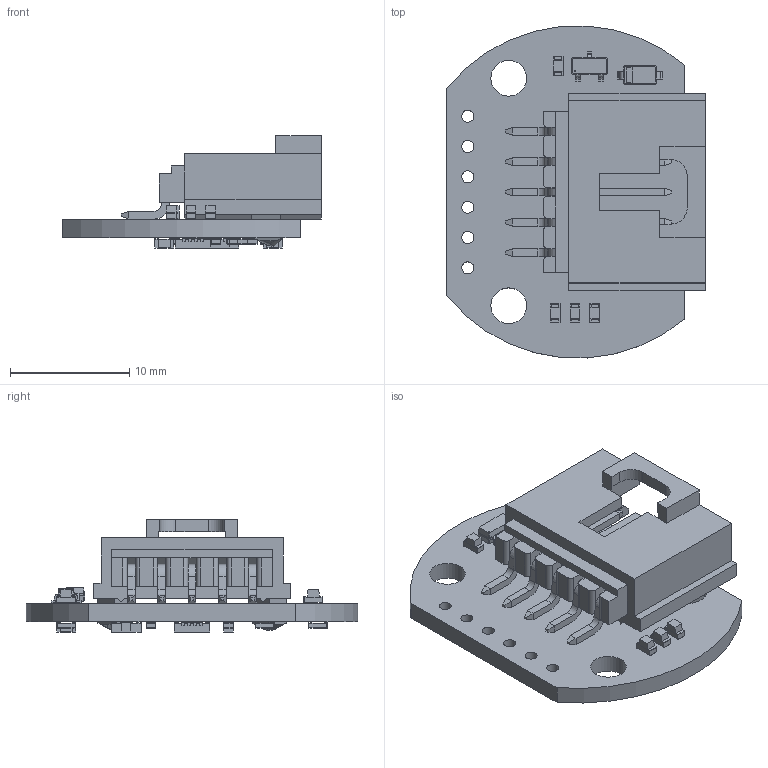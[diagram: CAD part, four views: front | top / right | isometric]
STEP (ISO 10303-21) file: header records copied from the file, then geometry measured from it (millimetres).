
FILE_DESCRIPTION(('KiCad electronic assembly'),'2;1');
FILE_NAME('mag-encoder.step','2026-03-22T20:36:18',('Pcbnew'),('Kicad'), 'Open CASCADE STEP processor 7.6','KiCad to STEP converter','Unknown' );
FILE_SCHEMA(('AUTOMOTIVE_DESIGN { 1 0 10303 214 1 1 1 1 }'));
Length unit declared in the file: millimetre
Products named in the file (29): mag-encoder 1; LED_0603_1608Metric; SOT-23; Molex-015912055; COMPOUND; D_SOD-123; R_0603_1608Metric; C_0603_1608Metric; BQA0014A; FRAME; SOLID; BODY; QFN-16-1EP_3x3mm_P0.5mm_EP1.7x1.7mm; mag-encoder_PCB
Assembly tree (42 placements, depth 4):
  mag-encoder 1
    LED_0603_1608Metric  x4
    SOT-23
    Molex-015912055
      COMPOUND
      COMPOUND
    D_SOD-123
    R_0603_1608Metric  x8
    C_0603_1608Metric  x5
    BQA0014A
      FRAME
        SOLID
        SOLID
        SOLID
        SOLID
        SOLID
        SOLID
        SOLID
        SOLID
        SOLID
        SOLID
        SOLID
        SOLID
        SOLID
        SOLID
        SOLID
      BODY
    QFN-16-1EP_3x3mm_P0.5mm_EP1.7x1.7mm
    mag-encoder_PCB
Bounding box: 21.65 x 27.79 x 9.44 mm (x, y, z)
Volume: 1345.8 mm3; surface area: 2634 mm2
Topology: 43 solids, 43 shells, 1269 faces, 3367 edges, 2225 vertices
Faces by surface type: plane 947, cylinder 288, bspline 34
Full cylindrical faces by diameter (mm): 0.2 x1, 1 x6, 3 x2, 3.4 x2
Entity records: 26109 total; most frequent: CARTESIAN_POINT 4869, ORIENTED_EDGE 4352, DIRECTION 4123, EDGE_CURVE 2176, LINE 1825, VECTOR 1825, VERTEX_POINT 1411, AXIS2_PLACEMENT_3D 1149
